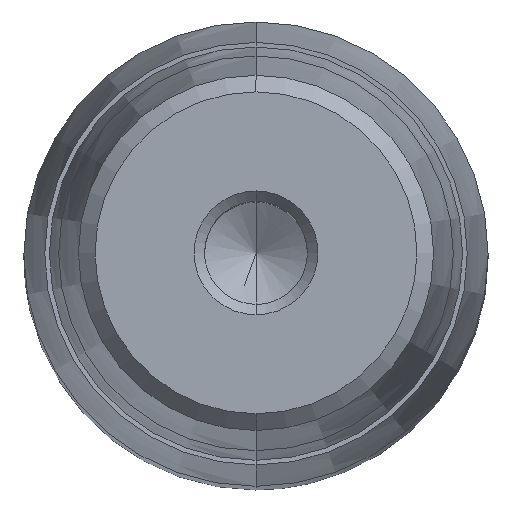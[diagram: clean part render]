
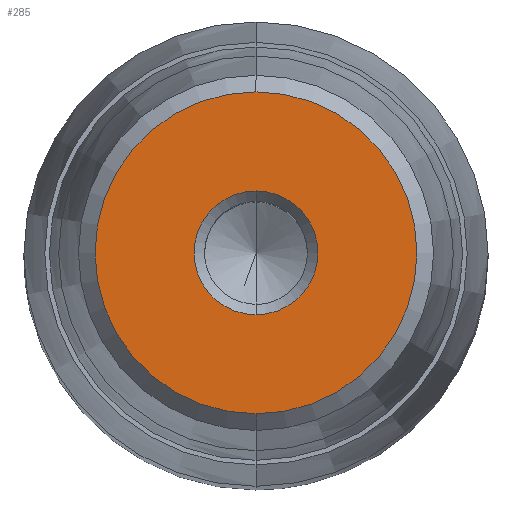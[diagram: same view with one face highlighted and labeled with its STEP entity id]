
A CAD part, top view. The second image highlights one B-rep face of the part: STEP entity #285.
In plain terms, the highlighted planar face has unit normal (0, 0, 1).
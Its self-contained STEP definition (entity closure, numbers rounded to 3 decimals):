
#164=CARTESIAN_POINT('Axis2P3D Location',(0.,0.,48.)) ;
#168=CARTESIAN_POINT('Vertex',(4.,0.,48.)) ;
#170=CARTESIAN_POINT('Vertex',(0.,-4.,48.)) ;
#173=CARTESIAN_POINT('Axis2P3D Location',(0.,0.,48.)) ;
#177=CARTESIAN_POINT('Vertex',(0.,4.,48.)) ;
#228=CARTESIAN_POINT('Axis2P3D Location',(0.,4.,48.)) ;
#233=CARTESIAN_POINT('Axis2P3D Location',(0.,0.,48.)) ;
#237=CARTESIAN_POINT('Vertex',(0.,10.4,48.)) ;
#239=CARTESIAN_POINT('Vertex',(10.4,0.,48.)) ;
#242=CARTESIAN_POINT('Axis2P3D Location',(0.,0.,48.)) ;
#246=CARTESIAN_POINT('Vertex',(-10.4,0.,48.)) ;
#249=CARTESIAN_POINT('Axis2P3D Location',(0.,0.,48.)) ;
#253=CARTESIAN_POINT('Vertex',(0.,-10.4,48.)) ;
#256=CARTESIAN_POINT('Axis2P3D Location',(0.,0.,48.)) ;
#267=CARTESIAN_POINT('Axis2P3D Location',(0.,0.,48.)) ;
#271=CARTESIAN_POINT('Vertex',(-4.,0.,48.)) ;
#274=CARTESIAN_POINT('Axis2P3D Location',(0.,0.,48.)) ;
#165=DIRECTION('Axis2P3D Direction',(-0.,0.,1.)) ;
#174=DIRECTION('Axis2P3D Direction',(-0.,0.,1.)) ;
#229=DIRECTION('Axis2P3D Direction',(0.,0.,-1.)) ;
#230=DIRECTION('Axis2P3D XDirection',(0.,1.,0.)) ;
#234=DIRECTION('Axis2P3D Direction',(0.,0.,-1.)) ;
#243=DIRECTION('Axis2P3D Direction',(0.,0.,-1.)) ;
#250=DIRECTION('Axis2P3D Direction',(0.,0.,-1.)) ;
#257=DIRECTION('Axis2P3D Direction',(0.,0.,-1.)) ;
#268=DIRECTION('Axis2P3D Direction',(0.,0.,-1.)) ;
#275=DIRECTION('Axis2P3D Direction',(0.,0.,-1.)) ;
#166=AXIS2_PLACEMENT_3D('Circle Axis2P3D',#164,#165,$) ;
#175=AXIS2_PLACEMENT_3D('Circle Axis2P3D',#173,#174,$) ;
#231=AXIS2_PLACEMENT_3D('Plane Axis2P3D',#228,#229,#230) ;
#235=AXIS2_PLACEMENT_3D('Circle Axis2P3D',#233,#234,$) ;
#244=AXIS2_PLACEMENT_3D('Circle Axis2P3D',#242,#243,$) ;
#251=AXIS2_PLACEMENT_3D('Circle Axis2P3D',#249,#250,$) ;
#258=AXIS2_PLACEMENT_3D('Circle Axis2P3D',#256,#257,$) ;
#269=AXIS2_PLACEMENT_3D('Circle Axis2P3D',#267,#268,$) ;
#276=AXIS2_PLACEMENT_3D('Circle Axis2P3D',#274,#275,$) ;
#262=ORIENTED_EDGE('',*,*,#241,.F.) ;
#263=ORIENTED_EDGE('',*,*,#248,.F.) ;
#264=ORIENTED_EDGE('',*,*,#255,.F.) ;
#265=ORIENTED_EDGE('',*,*,#260,.F.) ;
#280=ORIENTED_EDGE('',*,*,#172,.T.) ;
#281=ORIENTED_EDGE('',*,*,#273,.T.) ;
#282=ORIENTED_EDGE('',*,*,#278,.T.) ;
#283=ORIENTED_EDGE('',*,*,#179,.T.) ;
#284=FACE_BOUND('',#279,.T.) ;
#285=ADVANCED_FACE('722-30x160x193',(#266,#284),#232,.F.) ;
#167=CIRCLE('generated circle',#166,4.) ;
#176=CIRCLE('generated circle',#175,4.) ;
#236=CIRCLE('generated circle',#235,10.4) ;
#245=CIRCLE('generated circle',#244,10.4) ;
#252=CIRCLE('generated circle',#251,10.4) ;
#259=CIRCLE('generated circle',#258,10.4) ;
#270=CIRCLE('generated circle',#269,4.) ;
#277=CIRCLE('generated circle',#276,4.) ;
#172=EDGE_CURVE('',#169,#171,#167,.F.) ;
#179=EDGE_CURVE('',#178,#169,#176,.F.) ;
#241=EDGE_CURVE('',#238,#240,#236,.T.) ;
#248=EDGE_CURVE('',#247,#238,#245,.T.) ;
#255=EDGE_CURVE('',#254,#247,#252,.T.) ;
#260=EDGE_CURVE('',#240,#254,#259,.T.) ;
#273=EDGE_CURVE('',#171,#272,#270,.T.) ;
#278=EDGE_CURVE('',#272,#178,#277,.T.) ;
#261=EDGE_LOOP('',(#262,#263,#264,#265)) ;
#279=EDGE_LOOP('',(#280,#281,#282,#283)) ;
#266=FACE_OUTER_BOUND('',#261,.T.) ;
#232=PLANE('Plane',#231) ;
#169=VERTEX_POINT('',#168) ;
#171=VERTEX_POINT('',#170) ;
#178=VERTEX_POINT('',#177) ;
#238=VERTEX_POINT('',#237) ;
#240=VERTEX_POINT('',#239) ;
#247=VERTEX_POINT('',#246) ;
#254=VERTEX_POINT('',#253) ;
#272=VERTEX_POINT('',#271) ;
